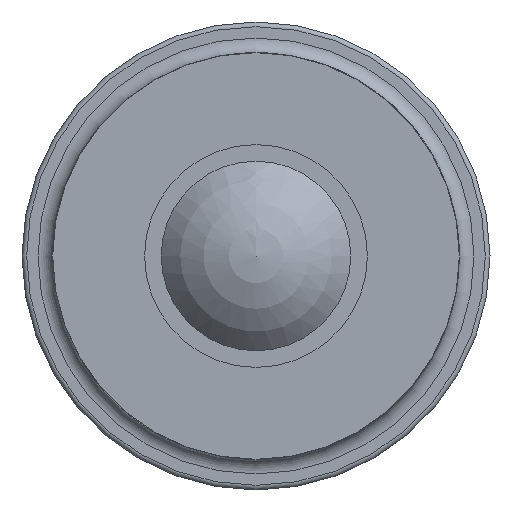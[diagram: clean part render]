
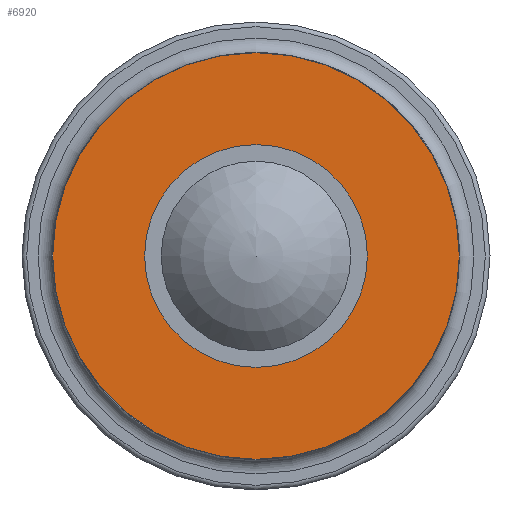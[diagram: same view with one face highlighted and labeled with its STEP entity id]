
A CAD part, left-side view. The second image highlights one B-rep face of the part: STEP entity #6920.
In plain terms, the highlighted planar face has unit normal (-1, 0, 0).
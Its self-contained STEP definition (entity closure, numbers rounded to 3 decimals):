
#872=PLANE('',#7278);
#1316=ORIENTED_EDGE('',*,*,#2777,.T.);
#1317=ORIENTED_EDGE('',*,*,#2776,.F.);
#2776=EDGE_CURVE('',#3511,#3511,#3817,.T.);
#2777=EDGE_CURVE('',#3512,#3512,#3818,.T.);
#3511=VERTEX_POINT('',#9621);
#3512=VERTEX_POINT('',#9624);
#3817=CIRCLE('',#7277,11.036);
#3818=CIRCLE('',#7279,6.045);
#3938=EDGE_LOOP('',(#1316));
#3939=EDGE_LOOP('',(#1317));
#4337=FACE_BOUND('',#3938,.T.);
#4338=FACE_BOUND('',#3939,.T.);
#6920=ADVANCED_FACE('',(#4337,#4338),#872,.T.);
#7277=AXIS2_PLACEMENT_3D('',#9620,#7700,#7701);
#7278=AXIS2_PLACEMENT_3D('',#9622,#7702,#7703);
#7279=AXIS2_PLACEMENT_3D('',#9623,#7704,#7705);
#7700=DIRECTION('',(1.,0.,0.));
#7701=DIRECTION('',(0.,0.,1.));
#7702=DIRECTION('',(-1.,0.,0.));
#7703=DIRECTION('',(0.,0.,-1.));
#7704=DIRECTION('',(1.,0.,0.));
#7705=DIRECTION('',(0.,0.,1.));
#9620=CARTESIAN_POINT('',(-65.646,0.,0.));
#9621=CARTESIAN_POINT('',(-65.646,0.,11.036));
#9622=CARTESIAN_POINT('',(-65.646,0.,11.036));
#9623=CARTESIAN_POINT('',(-65.646,0.,0.));
#9624=CARTESIAN_POINT('',(-65.646,0.,6.045));
